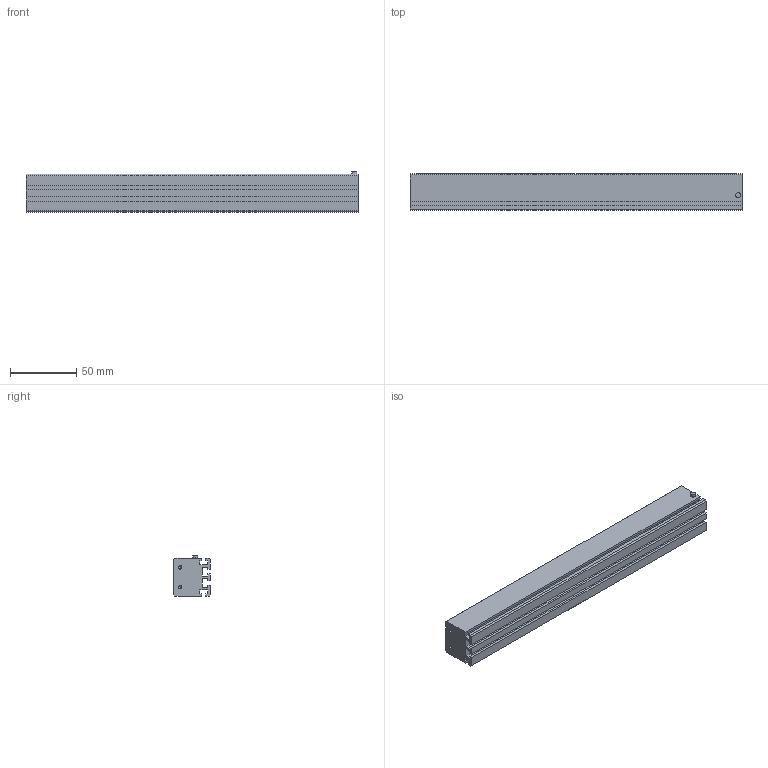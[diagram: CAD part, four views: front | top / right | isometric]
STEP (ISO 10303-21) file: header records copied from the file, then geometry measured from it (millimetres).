
FILE_DESCRIPTION (( 'STEP AP203' ), '1' );
FILE_NAME ('LRD-B4-250.STEP', '2022-08-22T06:39:07', ( 'TNT' ), ( '' ), 'SwSTEP 2.0', 'SolidWorks 2018', '' );
FILE_SCHEMA (( 'CONFIG_CONTROL_DESIGN' ));
Length unit declared in the file: millimetre
Products named in the file (1): LRD-B4-250
Bounding box: 250 x 27.7 x 30.6 mm (x, y, z)
Volume: 163889 mm3; surface area: 46396.6 mm2
Topology: 1 solids, 1 shells, 66 faces, 178 edges, 112 vertices
Faces by surface type: plane 48, cylinder 10, cone 8
Entity records: 2059 total; most frequent: CARTESIAN_POINT 349, ORIENTED_EDGE 340, DIRECTION 324, EDGE_CURVE 170, VECTOR 150, LINE 150, VERTEX_POINT 112, AXIS2_PLACEMENT_3D 87
